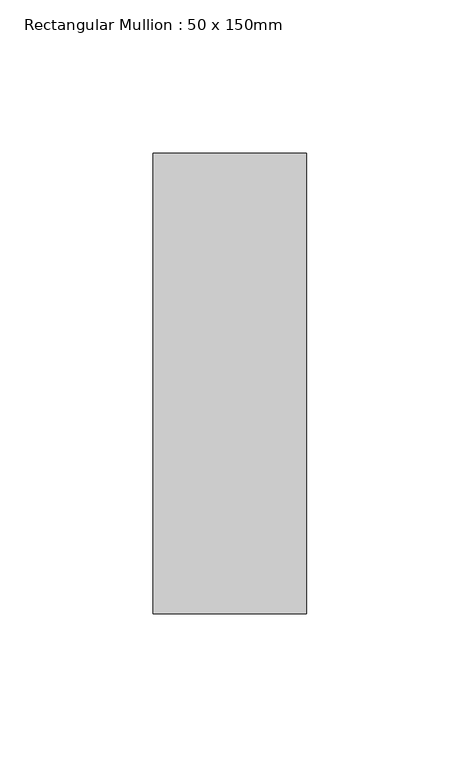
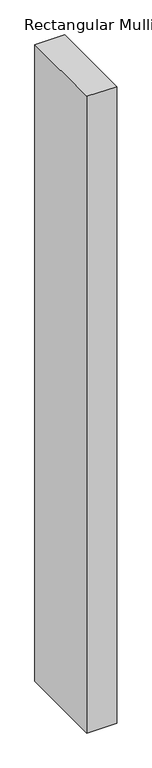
"""IFC4 building model written with IfcOpenShell, lengths in millimetres: member geometry, Rectangular Mullion : 50 x 150mm."""

from ifc_helpers import new_model, si_unit, frame, origin, place, context, project, spatial, polyline, outline, extrude, source, transform, mapped, element, save


def rectangular_mullion_50_x_150mm_ef179906(model_context):
    return source(origin(), model_context, "Body", "SweptSolid", [
        extrude(outline(polyline([(25.0, 75.0), (25.0, -75.0), (-25.0, -75.0), (-25.0, 75.0), (25.0, 75.0)])), frame((0.0, 0.0, -1121.975), z_axis=(0.0, 0.0, 1.0), x_axis=(1.0, 0.0, 0.0)), (0.0, 0.0, 1.0), 1121.975),
    ])


if __name__ == "__main__":
    model = new_model("IFC4")
    model_context = context("Model", 3, world=origin())
    ifc_project = project(units=[si_unit("LENGTHUNIT", "METRE", prefix="MILLI")], contexts=[model_context])
    site = spatial("IfcSite", under=ifc_project)
    building = spatial("IfcBuilding", under=site)
    placement = place(None, origin())
    rectangular_mullion_50_x_150mm_shape = rectangular_mullion_50_x_150mm_ef179906(model_context)
    element("IfcMember", 1, ObjectType="Rectangular Mullion : 50 x 150mm", at=placement, inside=building, context=model_context, shape_type="MappedRepresentation", body=[
        mapped(rectangular_mullion_50_x_150mm_shape, transform((0.0, 0.0, 0.0), x_axis=(1.0, 0.0, 0.0), y_axis=(0.0, 1.0, 0.0), z_axis=(0.0, 0.0, 1.0))),
    ])
    save(model, "model.ifc")
